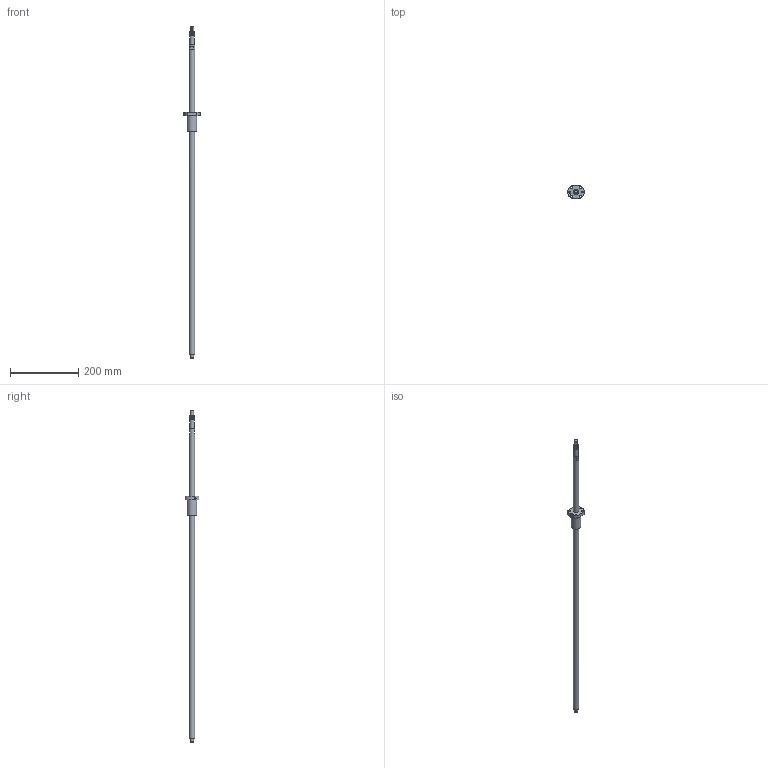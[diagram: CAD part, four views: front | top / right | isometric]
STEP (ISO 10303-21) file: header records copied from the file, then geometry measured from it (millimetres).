
FILE_DESCRIPTION(/* description */ (''),/* implementation_level */ '2;1');
FILE_NAME(/* name */ 'BSG145_asm1.stp',/* time_stamp */ '2017-01-07T08:54:21+08:00',/* author */ (''),/* organization */ (''),/* preprocessor_version */ 'ST-DEVELOPER v15',/* originating_system */ 'SIEMENS PLM Software NX 8.5',/* authorisation */ '');
FILE_SCHEMA (('AUTOMOTIVE_DESIGN { 1 0 10303 214 3 1 1 1 }'));
Length unit declared in the file: millimetre
Products named in the file (3): 01; BSG145; BSG145_asm1
Assembly tree (2 placements, depth 2):
  BSG145_asm1
    BSG145
    01
Bounding box: 48 x 40 x 975 mm (x, y, z)
Volume: 220505.8 mm3; surface area: 60847.2 mm2
Topology: 2 solids, 2 shells, 56 faces, 137 edges, 94 vertices
Faces by surface type: cylinder 28, plane 24, bspline 2, cone 2
Full cylindrical faces by diameter (mm): 5 x1, 5.5 x6, 6 x1, 9.6 x1, 10 x3, 12 x8, 16 x2, 28 x1
Entity records: 2497 total; most frequent: CARTESIAN_POINT 1414, DIRECTION 212, ORIENTED_EDGE 170, AXIS2_PLACEMENT_3D 92, EDGE_LOOP 90, EDGE_CURVE 85, FACE_BOUND 69, VERTEX_POINT 67
